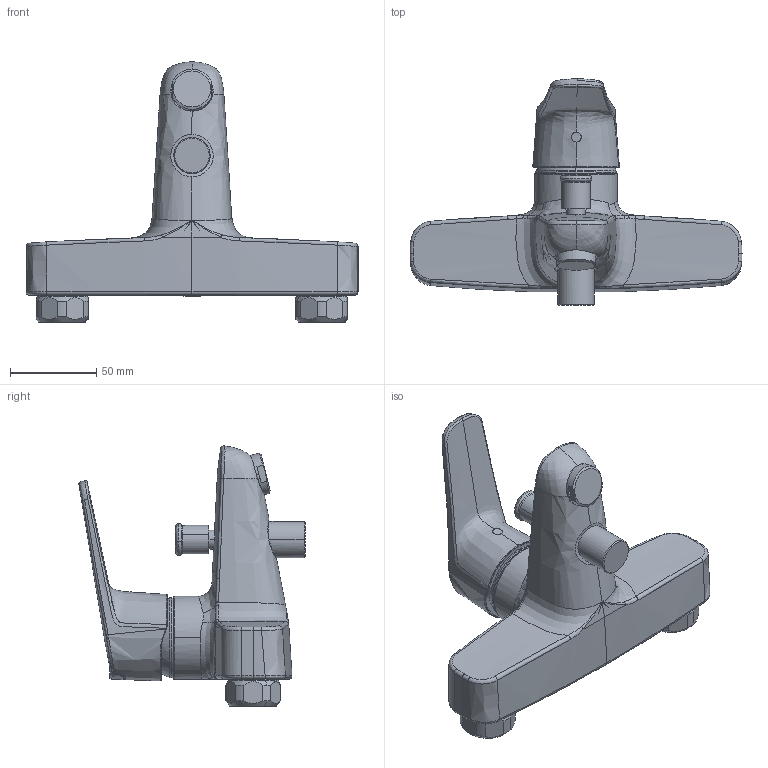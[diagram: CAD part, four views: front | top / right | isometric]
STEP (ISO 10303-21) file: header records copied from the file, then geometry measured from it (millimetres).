
FILE_DESCRIPTION (( 'STEP AP203' ), '1' );
FILE_NAME ('1840G(2018).STEP', '2019-06-03T06:30:55', ( '' ), ( '' ), 'SwSTEP 2.0', 'SolidWorks 2016', '' );
FILE_SCHEMA (( 'CONFIG_CONTROL_DESIGN' ));
Length unit declared in the file: millimetre
Products named in the file (1): 1840G(2018)
Bounding box: 192 x 130.81 x 150.49 mm (x, y, z)
Volume: 537931.7 mm3; surface area: 61397 mm2
Topology: 1 solids, 1 shells, 260 faces, 683 edges, 437 vertices
Faces by surface type: bspline 145, cylinder 56, plane 34, torus 12, cone 10, sphere 3
Entity records: 41778 total; most frequent: CARTESIAN_POINT 36601, ORIENTED_EDGE 1362, EDGE_CURVE 681, DIRECTION 637, VERTEX_POINT 437, B_SPLINE_CURVE_WITH_KNOTS 413, AXIS2_PLACEMENT_3D 279, EDGE_LOOP 274
